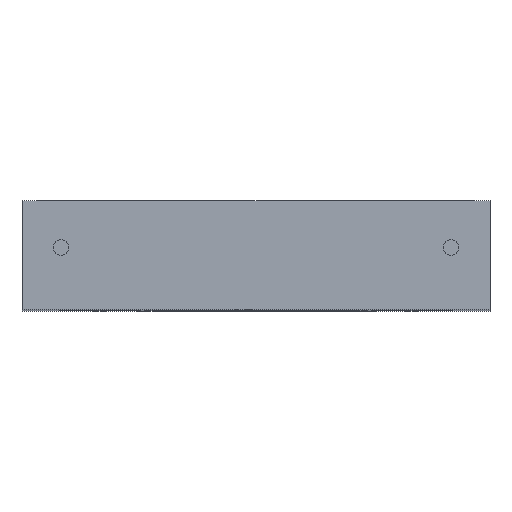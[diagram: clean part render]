
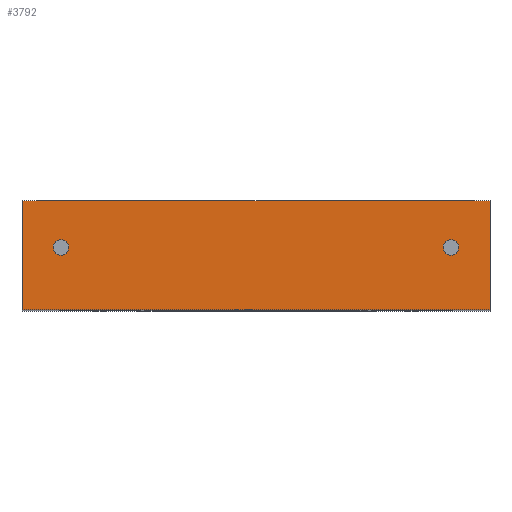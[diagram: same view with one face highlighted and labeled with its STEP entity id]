
A CAD part, top view. The second image highlights one B-rep face of the part: STEP entity #3792.
In plain terms, the highlighted planar face has unit normal (0, 0, 1).
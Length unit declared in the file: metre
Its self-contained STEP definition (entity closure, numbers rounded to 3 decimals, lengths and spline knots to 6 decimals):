
#153=LINE('',#5475,#671);
#154=LINE('',#5478,#672);
#155=LINE('',#5480,#673);
#156=LINE('',#5482,#674);
#671=VECTOR('',#4380,1.);
#672=VECTOR('',#4381,1.);
#673=VECTOR('',#4382,1.);
#674=VECTOR('',#4383,1.);
#1201=ORIENTED_EDGE('',*,*,#2292,.F.);
#1202=ORIENTED_EDGE('',*,*,#2293,.F.);
#1203=ORIENTED_EDGE('',*,*,#2294,.T.);
#1204=ORIENTED_EDGE('',*,*,#2295,.T.);
#1205=ORIENTED_EDGE('',*,*,#2296,.T.);
#1206=ORIENTED_EDGE('',*,*,#2297,.F.);
#2292=EDGE_CURVE('',#2834,#2835,#153,.T.);
#2293=EDGE_CURVE('',#2836,#2834,#154,.T.);
#2294=EDGE_CURVE('',#2836,#2837,#155,.T.);
#2295=EDGE_CURVE('',#2837,#2835,#156,.T.);
#2296=EDGE_CURVE('',#2838,#2838,#3087,.F.);
#2297=EDGE_CURVE('',#2839,#2839,#3088,.F.);
#2834=VERTEX_POINT('',#5476);
#2835=VERTEX_POINT('',#5477);
#2836=VERTEX_POINT('',#5479);
#2837=VERTEX_POINT('',#5481);
#2838=VERTEX_POINT('',#5484);
#2839=VERTEX_POINT('',#5486);
#3087=CIRCLE('',#4009,0.001);
#3088=CIRCLE('',#4010,0.001);
#3129=EDGE_LOOP('',(#1201,#1202,#1203,#1204));
#3130=EDGE_LOOP('',(#1205));
#3131=EDGE_LOOP('',(#1206));
#3371=FACE_BOUND('',#3129,.T.);
#3372=FACE_BOUND('',#3130,.T.);
#3373=FACE_BOUND('',#3131,.T.);
#3606=PLANE('',#4008);
#3792=ADVANCED_FACE('',(#3371,#3372,#3373),#3606,.T.);
#4008=AXIS2_PLACEMENT_3D('',#5474,#4378,#4379);
#4009=AXIS2_PLACEMENT_3D('',#5483,#4384,#4385);
#4010=AXIS2_PLACEMENT_3D('',#5485,#4386,#4387);
#4378=DIRECTION('',(0.,0.,1.));
#4379=DIRECTION('',(1.,0.,0.));
#4380=DIRECTION('',(1.,0.,0.));
#4381=DIRECTION('',(0.,1.,0.));
#4382=DIRECTION('',(1.,0.,0.));
#4383=DIRECTION('',(0.,1.,0.));
#4384=DIRECTION('',(0.,0.,1.));
#4385=DIRECTION('',(1.,0.,0.));
#4386=DIRECTION('',(0.,0.,-1.));
#4387=DIRECTION('',(-1.,0.,0.));
#5474=CARTESIAN_POINT('',(0.,-0.042,0.06));
#5475=CARTESIAN_POINT('',(0.,-0.028,0.06));
#5476=CARTESIAN_POINT('',(-0.03,-0.028,0.06));
#5477=CARTESIAN_POINT('',(0.03,-0.028,0.06));
#5478=CARTESIAN_POINT('',(-0.03,-0.042,0.06));
#5479=CARTESIAN_POINT('',(-0.03,-0.042,0.06));
#5480=CARTESIAN_POINT('',(0.,-0.042,0.06));
#5481=CARTESIAN_POINT('',(0.03,-0.042,0.06));
#5482=CARTESIAN_POINT('',(0.03,-0.042,0.06));
#5483=CARTESIAN_POINT('',(0.025,-0.034,0.06));
#5484=CARTESIAN_POINT('',(0.026,-0.034,0.06));
#5485=CARTESIAN_POINT('',(-0.025,-0.034,0.06));
#5486=CARTESIAN_POINT('',(-0.026,-0.034,0.06));
